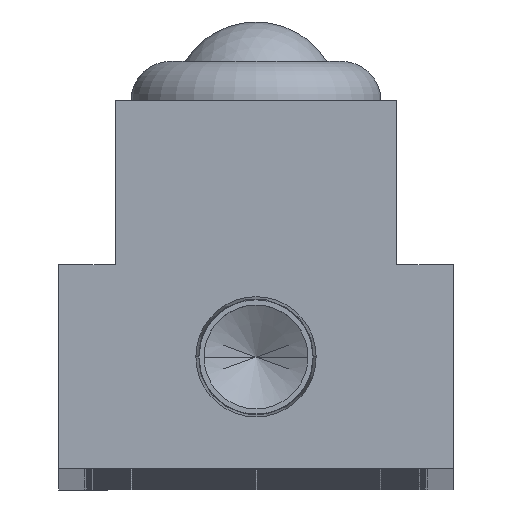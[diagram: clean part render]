
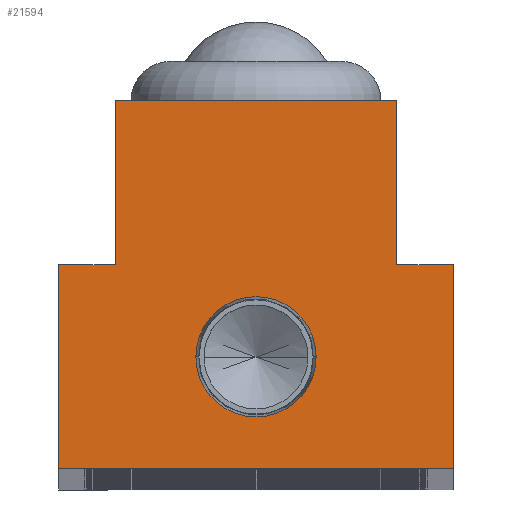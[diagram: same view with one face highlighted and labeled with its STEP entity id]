
A CAD part, top view. The second image highlights one B-rep face of the part: STEP entity #21594.
In plain terms, the highlighted planar face has unit normal (0, 0, 1).
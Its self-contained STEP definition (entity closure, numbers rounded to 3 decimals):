
#139 = LINE ( 'NONE', #5687, #20695 ) ;
#569 = DIRECTION ( 'NONE',  ( 1., 0., 0. ) ) ;
#644 = VERTEX_POINT ( 'NONE', #883 ) ;
#883 = CARTESIAN_POINT ( 'NONE',  ( 15., 0., 0. ) ) ;
#949 = LINE ( 'NONE', #16854, #21511 ) ;
#1111 = EDGE_LOOP ( 'NONE', ( #23589, #8817, #22598, #14885, #13236, #23472, #19856, #19751 ) ) ;
#1336 = CARTESIAN_POINT ( 'NONE',  ( 0., 8.5, 0. ) ) ;
#1560 = VERTEX_POINT ( 'NONE', #19536 ) ;
#1670 = FACE_BOUND ( 'NONE', #20298, .T. ) ;
#1861 = VERTEX_POINT ( 'NONE', #17846 ) ;
#1890 = VERTEX_POINT ( 'NONE', #11917 ) ;
#2213 = EDGE_CURVE ( 'NONE', #1560, #24112, #139, .T. ) ;
#2658 = EDGE_CURVE ( 'NONE', #23945, #21637, #22541, .T. ) ;
#2973 = VECTOR ( 'NONE', #16023, 1000. ) ;
#3160 = VERTEX_POINT ( 'NONE', #3569 ) ;
#3217 = LINE ( 'NONE', #7687, #7892 ) ;
#3317 = DIRECTION ( 'NONE',  ( 1., 0., 0. ) ) ;
#3362 = EDGE_CURVE ( 'NONE', #1861, #644, #3217, .T. ) ;
#3569 = CARTESIAN_POINT ( 'NONE',  ( -15., 15.5, 0. ) ) ;
#3926 = CARTESIAN_POINT ( 'NONE',  ( 0., 0., 0. ) ) ;
#4171 = CARTESIAN_POINT ( 'NONE',  ( -10.7, 15.5, 0. ) ) ;
#4353 = CARTESIAN_POINT ( 'NONE',  ( 15., 0., 0. ) ) ;
#4572 = CARTESIAN_POINT ( 'NONE',  ( 10.7, 15.5, 0. ) ) ;
#4918 = DIRECTION ( 'NONE',  ( 0., -1., 0. ) ) ;
#5666 = DIRECTION ( 'NONE',  ( 1., 0., 0. ) ) ;
#5687 = CARTESIAN_POINT ( 'NONE',  ( 10.7, 15.5, 0. ) ) ;
#5722 = EDGE_CURVE ( 'NONE', #21637, #23945, #8863, .T. ) ;
#5932 = DIRECTION ( 'NONE',  ( 0., 0., 1. ) ) ;
#6146 = CARTESIAN_POINT ( 'NONE',  ( -4.574, 8.5, 0. ) ) ;
#6355 = DIRECTION ( 'NONE',  ( 0., 1., 0. ) ) ;
#6586 = ORIENTED_EDGE ( 'NONE', *, *, #2658, .F. ) ;
#6790 = LINE ( 'NONE', #20396, #11486 ) ;
#7004 = VECTOR ( 'NONE', #6355, 1000. ) ;
#7687 = CARTESIAN_POINT ( 'NONE',  ( 15., 0., 0. ) ) ;
#7843 = PLANE ( 'NONE',  #22946 ) ;
#7892 = VECTOR ( 'NONE', #5666, 1000. ) ;
#8426 = DIRECTION ( 'NONE',  ( 0., -1., 0. ) ) ;
#8441 = DIRECTION ( 'NONE',  ( 0., 1., 0. ) ) ;
#8817 = ORIENTED_EDGE ( 'NONE', *, *, #19095, .T. ) ;
#8863 = CIRCLE ( 'NONE', #21705, 4.574 ) ;
#8919 = VECTOR ( 'NONE', #17740, 1000. ) ;
#9499 = LINE ( 'NONE', #4171, #2973 ) ;
#10005 = CARTESIAN_POINT ( 'NONE',  ( 4.574, 8.5, 0. ) ) ;
#11486 = VECTOR ( 'NONE', #8426, 1000. ) ;
#11621 = FACE_OUTER_BOUND ( 'NONE', #1111, .T. ) ;
#11917 = CARTESIAN_POINT ( 'NONE',  ( -10.7, 28., 0. ) ) ;
#11994 = AXIS2_PLACEMENT_3D ( 'NONE', #1336, #15258, #3317 ) ;
#12323 = LINE ( 'NONE', #4353, #7004 ) ;
#12483 = DIRECTION ( 'NONE',  ( 0., 0., 1. ) ) ;
#13139 = CARTESIAN_POINT ( 'NONE',  ( -10.7, 15.5, 0. ) ) ;
#13236 = ORIENTED_EDGE ( 'NONE', *, *, #17215, .T. ) ;
#14263 = LINE ( 'NONE', #15644, #8919 ) ;
#14491 = LINE ( 'NONE', #22414, #23827 ) ;
#14575 = VERTEX_POINT ( 'NONE', #13139 ) ;
#14885 = ORIENTED_EDGE ( 'NONE', *, *, #20097, .T. ) ;
#14898 = ORIENTED_EDGE ( 'NONE', *, *, #5722, .F. ) ;
#15131 = EDGE_CURVE ( 'NONE', #24112, #24681, #14491, .T. ) ;
#15258 = DIRECTION ( 'NONE',  ( 0., 0., 1. ) ) ;
#15644 = CARTESIAN_POINT ( 'NONE',  ( -10.7, 28., 0. ) ) ;
#16023 = DIRECTION ( 'NONE',  ( -1., 0., 0. ) ) ;
#16291 = EDGE_CURVE ( 'NONE', #1890, #14575, #949, .T. ) ;
#16823 = CARTESIAN_POINT ( 'NONE',  ( 10.7, 28., 0. ) ) ;
#16854 = CARTESIAN_POINT ( 'NONE',  ( -10.7, 28., 0. ) ) ;
#17215 = EDGE_CURVE ( 'NONE', #3160, #1861, #6790, .T. ) ;
#17740 = DIRECTION ( 'NONE',  ( -1., 0., 0. ) ) ;
#17846 = CARTESIAN_POINT ( 'NONE',  ( -15., 0., 0. ) ) ;
#19095 = EDGE_CURVE ( 'NONE', #24681, #1890, #14263, .T. ) ;
#19536 = CARTESIAN_POINT ( 'NONE',  ( 15., 15.5, 0. ) ) ;
#19646 = DIRECTION ( 'NONE',  ( -1., 0., 0. ) ) ;
#19751 = ORIENTED_EDGE ( 'NONE', *, *, #2213, .T. ) ;
#19856 = ORIENTED_EDGE ( 'NONE', *, *, #20148, .T. ) ;
#19901 = DIRECTION ( 'NONE',  ( 1., 0., 0. ) ) ;
#20097 = EDGE_CURVE ( 'NONE', #14575, #3160, #9499, .T. ) ;
#20148 = EDGE_CURVE ( 'NONE', #644, #1560, #12323, .T. ) ;
#20298 = EDGE_LOOP ( 'NONE', ( #14898, #6586 ) ) ;
#20396 = CARTESIAN_POINT ( 'NONE',  ( -15., 0., 0. ) ) ;
#20695 = VECTOR ( 'NONE', #19646, 1000. ) ;
#21511 = VECTOR ( 'NONE', #4918, 1000. ) ;
#21594 = ADVANCED_FACE ( 'NONE', ( #1670, #11621 ), #7843, .T. ) ;
#21637 = VERTEX_POINT ( 'NONE', #10005 ) ;
#21705 = AXIS2_PLACEMENT_3D ( 'NONE', #24421, #12483, #569 ) ;
#22414 = CARTESIAN_POINT ( 'NONE',  ( 10.7, 28., 0. ) ) ;
#22541 = CIRCLE ( 'NONE', #11994, 4.574 ) ;
#22598 = ORIENTED_EDGE ( 'NONE', *, *, #16291, .T. ) ;
#22946 = AXIS2_PLACEMENT_3D ( 'NONE', #3926, #5932, #19901 ) ;
#23472 = ORIENTED_EDGE ( 'NONE', *, *, #3362, .T. ) ;
#23589 = ORIENTED_EDGE ( 'NONE', *, *, #15131, .T. ) ;
#23827 = VECTOR ( 'NONE', #8441, 1000. ) ;
#23945 = VERTEX_POINT ( 'NONE', #6146 ) ;
#24112 = VERTEX_POINT ( 'NONE', #4572 ) ;
#24421 = CARTESIAN_POINT ( 'NONE',  ( 0., 8.5, 0. ) ) ;
#24681 = VERTEX_POINT ( 'NONE', #16823 ) ;
